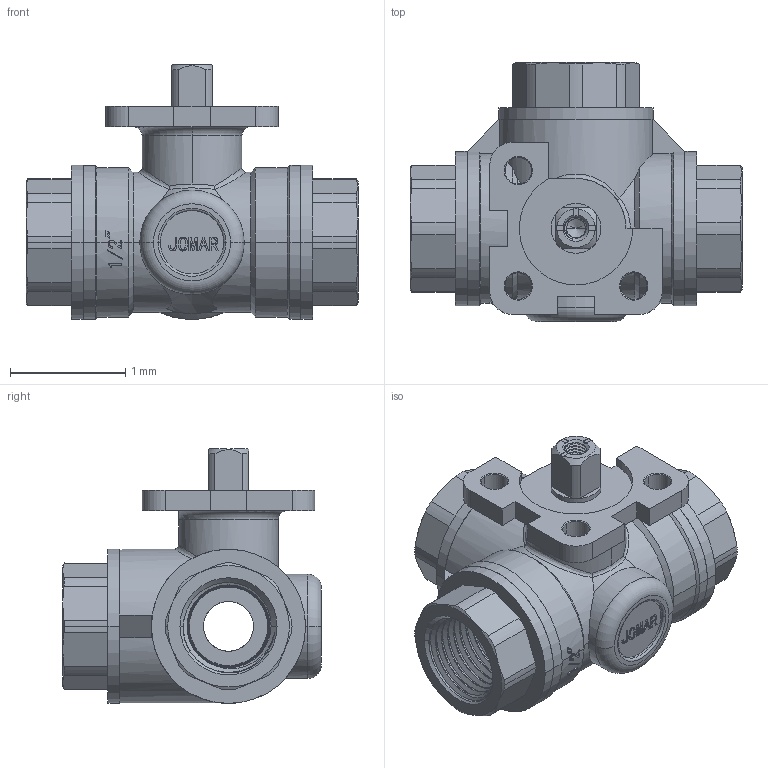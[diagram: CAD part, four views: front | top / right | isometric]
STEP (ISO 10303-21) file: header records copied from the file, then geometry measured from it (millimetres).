
FILE_DESCRIPTION(('Open CASCADE Model'),'2;1');
FILE_NAME('Open CASCADE Shape Model','2023-01-24T15:50:54',('Author'),( 'Open CASCADE'),'Open CASCADE STEP processor 7.3','Open CASCADE 7.3' ,'Unknown');
FILE_SCHEMA(('AUTOMOTIVE_DESIGN { 1 0 10303 214 1 1 1 1 }'));
Length unit declared in the file: millimetre
Products named in the file (18): Open CASCADE STEP translator 7.3 1; Open CASCADE STEP translator 7.3 1.1; Open CASCADE STEP translator 7.3 1.2; Open CASCADE STEP translator 7.3 1.3; Open CASCADE STEP translator 7.3 1.4; Open CASCADE STEP translator 7.3 1.5; Open CASCADE STEP translator 7.3 1.6; Open CASCADE STEP translator 7.3 1.7; Open CASCADE STEP translator 7.3 1.8; Open CASCADE STEP translator 7.3 1.9; Open CASCADE STEP translator 7.3 1.10; Open CASCADE STEP translator 7.3 1.11; Open CASCADE STEP translator 7.3 1.12; Open CASCADE STEP translator 7.3 1.13; Open CASCADE STEP translator 7.3 1.14; Open CASCADE STEP translator 7.3 1.15; Open CASCADE STEP translator 7.3 1.16; Open CASCADE STEP translator 7.3 1.17
Assembly tree (17 placements, depth 2):
  Open CASCADE STEP translator 7.3 1
    Open CASCADE STEP translator 7.3 1.1
    Open CASCADE STEP translator 7.3 1.2
    Open CASCADE STEP translator 7.3 1.3
    Open CASCADE STEP translator 7.3 1.4
    Open CASCADE STEP translator 7.3 1.5
    Open CASCADE STEP translator 7.3 1.6
    Open CASCADE STEP translator 7.3 1.7
    Open CASCADE STEP translator 7.3 1.8
    Open CASCADE STEP translator 7.3 1.9
    Open CASCADE STEP translator 7.3 1.10
    Open CASCADE STEP translator 7.3 1.11
    Open CASCADE STEP translator 7.3 1.12
    Open CASCADE STEP translator 7.3 1.13
    Open CASCADE STEP translator 7.3 1.14
    Open CASCADE STEP translator 7.3 1.15
    Open CASCADE STEP translator 7.3 1.16
    Open CASCADE STEP translator 7.3 1.17
Bounding box: 2.88 x 2.25 x 2.21 mm (x, y, z)
Volume: 3.6 mm3; surface area: 69.4 mm2
Topology: 17 solids, 17 shells, 816 faces, 2074 edges, 1326 vertices
Faces by surface type: cylinder 271, plane 219, cone 153, bspline 105, torus 54, sphere 10, revolution 4
Entity records: 124779 total; most frequent: CARTESIAN_POINT 86581, DIRECTION 6144, ORIENTED_EDGE 4138, PCURVE 4138, DEFINITIONAL_REPRESENTATION 4138, LINE 3036, VECTOR 3036, EDGE_CURVE 2069
